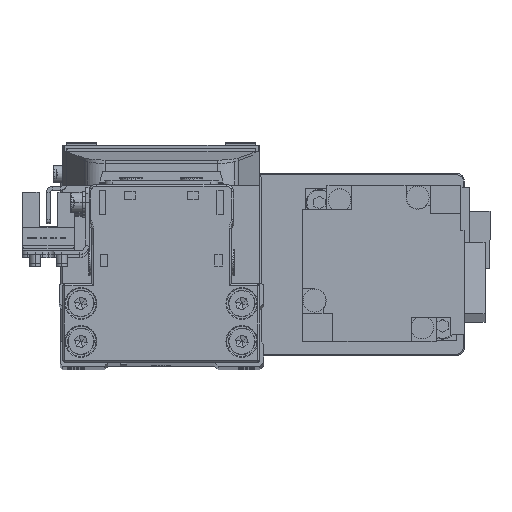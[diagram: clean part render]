
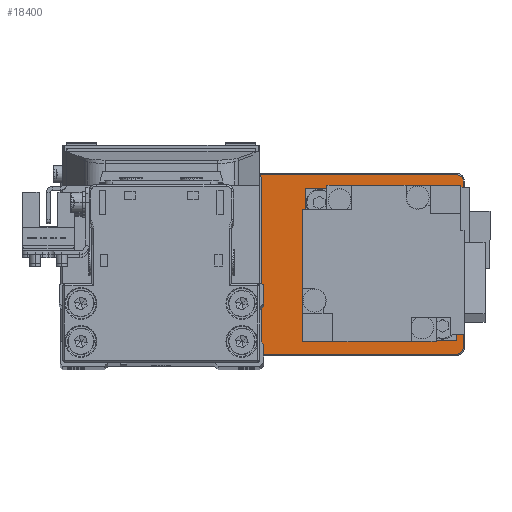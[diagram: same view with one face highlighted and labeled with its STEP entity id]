
A CAD part, top view. The second image highlights one B-rep face of the part: STEP entity #18400.
In plain terms, the highlighted planar face has unit normal (0, 0, 1).
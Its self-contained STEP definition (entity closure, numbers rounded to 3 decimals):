
#432 = VERTEX_POINT ( 'NONE', #17480 ) ;
#452 = DIRECTION ( 'NONE',  ( 1., 0., 0. ) ) ;
#591 = DIRECTION ( 'NONE',  ( 1., 0., 0. ) ) ;
#1585 = FACE_BOUND ( 'NONE', #5600, .T. ) ;
#1601 = CIRCLE ( 'NONE', #24340, 10.3 ) ;
#1639 = VERTEX_POINT ( 'NONE', #2895 ) ;
#1697 = DIRECTION ( 'NONE',  ( 0., 0., 1. ) ) ;
#1851 = VERTEX_POINT ( 'NONE', #29112 ) ;
#2153 = EDGE_CURVE ( 'NONE', #33620, #1639, #7861, .T. ) ;
#2251 = ORIENTED_EDGE ( 'NONE', *, *, #3576, .T. ) ;
#2567 = DIRECTION ( 'NONE',  ( 0., 0., -1. ) ) ;
#2895 = CARTESIAN_POINT ( 'NONE',  ( 50., 23.7, 5. ) ) ;
#3173 = ORIENTED_EDGE ( 'NONE', *, *, #20708, .T. ) ;
#3346 = ORIENTED_EDGE ( 'NONE', *, *, #29665, .T. ) ;
#3414 = ORIENTED_EDGE ( 'NONE', *, *, #2153, .T. ) ;
#3538 = EDGE_CURVE ( 'NONE', #6561, #33620, #4852, .T. ) ;
#3576 = EDGE_CURVE ( 'NONE', #10790, #17931, #10159, .T. ) ;
#4511 = EDGE_CURVE ( 'NONE', #18389, #1851, #38159, .T. ) ;
#4852 = LINE ( 'NONE', #17241, #12112 ) ;
#5457 = AXIS2_PLACEMENT_3D ( 'NONE', #16035, #28468, #591 ) ;
#5600 = EDGE_LOOP ( 'NONE', ( #15758, #2251 ) ) ;
#5861 = AXIS2_PLACEMENT_3D ( 'NONE', #14710, #27133, #39513 ) ;
#6025 = EDGE_CURVE ( 'NONE', #29110, #6561, #23412, .T. ) ;
#6503 = DIRECTION ( 'NONE',  ( 0., 0., 1. ) ) ;
#6561 = VERTEX_POINT ( 'NONE', #12399 ) ;
#6609 = CARTESIAN_POINT ( 'NONE',  ( -51.7, -22., 5. ) ) ;
#7182 = DIRECTION ( 'NONE',  ( 0., 0., -1. ) ) ;
#7664 = DIRECTION ( 'NONE',  ( -1., 0., 0. ) ) ;
#7728 = ORIENTED_EDGE ( 'NONE', *, *, #32748, .T. ) ;
#7861 = CIRCLE ( 'NONE', #30610, 1.7 ) ;
#9180 = DIRECTION ( 'NONE',  ( 1., 0., 0. ) ) ;
#10159 = CIRCLE ( 'NONE', #32904, 12.8 ) ;
#10536 = CARTESIAN_POINT ( 'NONE',  ( -51.7, -22., 5. ) ) ;
#10790 = VERTEX_POINT ( 'NONE', #17212 ) ;
#10926 = CARTESIAN_POINT ( 'NONE',  ( 0., 0., 5. ) ) ;
#11115 = VERTEX_POINT ( 'NONE', #28408 ) ;
#11335 = CARTESIAN_POINT ( 'NONE',  ( 30., 0., 5. ) ) ;
#11504 = CARTESIAN_POINT ( 'NONE',  ( 51.7, 22., 5. ) ) ;
#12021 = VECTOR ( 'NONE', #22965, 1000. ) ;
#12112 = VECTOR ( 'NONE', #29662, 1000. ) ;
#12211 = CIRCLE ( 'NONE', #34945, 10.3 ) ;
#12399 = CARTESIAN_POINT ( 'NONE',  ( 51.7, -22., 5. ) ) ;
#13504 = CIRCLE ( 'NONE', #36222, 12.8 ) ;
#13986 = FACE_BOUND ( 'NONE', #18281, .T. ) ;
#14105 = DIRECTION ( 'NONE',  ( 1., 0., 0. ) ) ;
#14710 = CARTESIAN_POINT ( 'NONE',  ( 50., -22., 5. ) ) ;
#14953 = DIRECTION ( 'NONE',  ( 1., 0., 0. ) ) ;
#15758 = ORIENTED_EDGE ( 'NONE', *, *, #20427, .T. ) ;
#15895 = LINE ( 'NONE', #28325, #37063 ) ;
#16035 = CARTESIAN_POINT ( 'NONE',  ( -50., -22., 5. ) ) ;
#17069 = ORIENTED_EDGE ( 'NONE', *, *, #24910, .T. ) ;
#17212 = CARTESIAN_POINT ( 'NONE',  ( 17.2, 0., 5. ) ) ;
#17241 = CARTESIAN_POINT ( 'NONE',  ( 51.7, 22., 5. ) ) ;
#17251 = AXIS2_PLACEMENT_3D ( 'NONE', #10926, #23342, #35727 ) ;
#17480 = CARTESIAN_POINT ( 'NONE',  ( -17.7, 0., 5. ) ) ;
#17931 = VERTEX_POINT ( 'NONE', #39213 ) ;
#18281 = EDGE_LOOP ( 'NONE', ( #3173, #26855 ) ) ;
#18389 = VERTEX_POINT ( 'NONE', #29445 ) ;
#18400 = ADVANCED_FACE ( 'NONE', ( #1585, #13986, #26394 ), #38786, .T. ) ;
#18879 = DIRECTION ( 'NONE',  ( 1., 0., 0. ) ) ;
#19578 = DIRECTION ( 'NONE',  ( 1., 0., 0. ) ) ;
#20427 = EDGE_CURVE ( 'NONE', #17931, #10790, #13504, .T. ) ;
#20619 = AXIS2_PLACEMENT_3D ( 'NONE', #29562, #1697, #14105 ) ;
#20708 = EDGE_CURVE ( 'NONE', #432, #27713, #12211, .T. ) ;
#22965 = DIRECTION ( 'NONE',  ( 0., -1., 0. ) ) ;
#23012 = CIRCLE ( 'NONE', #5457, 1.7 ) ;
#23131 = LINE ( 'NONE', #35522, #32106 ) ;
#23342 = DIRECTION ( 'NONE',  ( 0., 0., 1. ) ) ;
#23412 = CIRCLE ( 'NONE', #5861, 1.7 ) ;
#23769 = DIRECTION ( 'NONE',  ( 0., 0., -1. ) ) ;
#24116 = ORIENTED_EDGE ( 'NONE', *, *, #3538, .T. ) ;
#24340 = AXIS2_PLACEMENT_3D ( 'NONE', #30422, #2567, #14953 ) ;
#24365 = CARTESIAN_POINT ( 'NONE',  ( 50., -23.7, 5. ) ) ;
#24669 = CARTESIAN_POINT ( 'NONE',  ( -28., 0., 5. ) ) ;
#24910 = EDGE_CURVE ( 'NONE', #11115, #29110, #15895, .T. ) ;
#25495 = ORIENTED_EDGE ( 'NONE', *, *, #4511, .T. ) ;
#26394 = FACE_OUTER_BOUND ( 'NONE', #28687, .T. ) ;
#26855 = ORIENTED_EDGE ( 'NONE', *, *, #32894, .T. ) ;
#27133 = DIRECTION ( 'NONE',  ( 0., 0., 1. ) ) ;
#27713 = VERTEX_POINT ( 'NONE', #33697 ) ;
#28325 = CARTESIAN_POINT ( 'NONE',  ( 50., -23.7, 5. ) ) ;
#28408 = CARTESIAN_POINT ( 'NONE',  ( -50., -23.7, 5. ) ) ;
#28468 = DIRECTION ( 'NONE',  ( 0., 0., 1. ) ) ;
#28687 = EDGE_LOOP ( 'NONE', ( #17069, #33721, #24116, #3414, #7728, #25495, #3346, #30656 ) ) ;
#29110 = VERTEX_POINT ( 'NONE', #24365 ) ;
#29112 = CARTESIAN_POINT ( 'NONE',  ( -51.7, 22., 5. ) ) ;
#29445 = CARTESIAN_POINT ( 'NONE',  ( -50., 23.7, 5. ) ) ;
#29562 = CARTESIAN_POINT ( 'NONE',  ( -50., 22., 5. ) ) ;
#29662 = DIRECTION ( 'NONE',  ( 0., 1., 0. ) ) ;
#29665 = EDGE_CURVE ( 'NONE', #1851, #38048, #38396, .T. ) ;
#30422 = CARTESIAN_POINT ( 'NONE',  ( -28., 0., 5. ) ) ;
#30610 = AXIS2_PLACEMENT_3D ( 'NONE', #34368, #6503, #18879 ) ;
#30656 = ORIENTED_EDGE ( 'NONE', *, *, #30875, .T. ) ;
#30875 = EDGE_CURVE ( 'NONE', #38048, #11115, #23012, .T. ) ;
#32106 = VECTOR ( 'NONE', #7664, 1000. ) ;
#32748 = EDGE_CURVE ( 'NONE', #1639, #18389, #23131, .T. ) ;
#32894 = EDGE_CURVE ( 'NONE', #27713, #432, #1601, .T. ) ;
#32904 = AXIS2_PLACEMENT_3D ( 'NONE', #11335, #23769, #36160 ) ;
#33620 = VERTEX_POINT ( 'NONE', #11504 ) ;
#33697 = CARTESIAN_POINT ( 'NONE',  ( -38.3, 0., 5. ) ) ;
#33721 = ORIENTED_EDGE ( 'NONE', *, *, #6025, .T. ) ;
#34368 = CARTESIAN_POINT ( 'NONE',  ( 50., 22., 5. ) ) ;
#34945 = AXIS2_PLACEMENT_3D ( 'NONE', #24669, #37061, #9180 ) ;
#35047 = CARTESIAN_POINT ( 'NONE',  ( 30., 0., 5. ) ) ;
#35522 = CARTESIAN_POINT ( 'NONE',  ( -50., 23.7, 5. ) ) ;
#35727 = DIRECTION ( 'NONE',  ( 1., 0., 0. ) ) ;
#36160 = DIRECTION ( 'NONE',  ( 1., 0., 0. ) ) ;
#36222 = AXIS2_PLACEMENT_3D ( 'NONE', #35047, #7182, #19578 ) ;
#37061 = DIRECTION ( 'NONE',  ( 0., 0., -1. ) ) ;
#37063 = VECTOR ( 'NONE', #452, 1000. ) ;
#38048 = VERTEX_POINT ( 'NONE', #6609 ) ;
#38159 = CIRCLE ( 'NONE', #20619, 1.7 ) ;
#38396 = LINE ( 'NONE', #10536, #12021 ) ;
#38786 = PLANE ( 'NONE',  #17251 ) ;
#39213 = CARTESIAN_POINT ( 'NONE',  ( 42.8, 0., 5. ) ) ;
#39513 = DIRECTION ( 'NONE',  ( 1., 0., 0. ) ) ;
